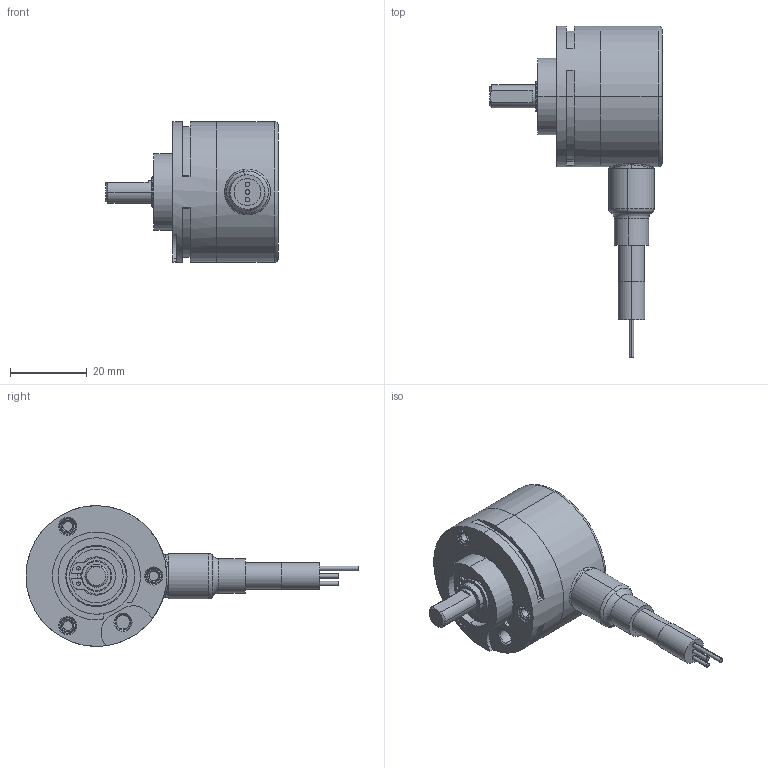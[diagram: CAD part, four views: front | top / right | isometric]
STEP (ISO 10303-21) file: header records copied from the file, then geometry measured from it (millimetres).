
FILE_DESCRIPTION (( 'STEP AP214' ), '1' );
FILE_NAME ('3700.13X2.XXXX.STEP', '2008-11-21T13:38:15', ( 'admin' ), ( 'Fritz Kübler GmbH' ), 'SwSTEP 2.0', 'SolidWorks 2008', '' );
FILE_SCHEMA (( 'AUTOMOTIVE_DESIGN' ));
Length unit declared in the file: millimetre
Products named in the file (1): 3700.13X2.XXXX
Bounding box: 45 x 86.8 x 36.8 mm (x, y, z)
Volume: 15895.8 mm3; surface area: 18350.9 mm2
Topology: 10 solids, 11 shells, 1126 faces, 2999 edges, 1882 vertices
Faces by surface type: cylinder 354, plane 353, bspline 173, torus 124, cone 81, sphere 41
Entity records: 52842 total; most frequent: CARTESIAN_POINT 15159, ORIENTED_EDGE 5872, DIRECTION 4932, EDGE_CURVE 2936, AXIS2_PLACEMENT_3D 2187, VERTEX_POINT 1848, CIRCLE 1233, EDGE_LOOP 1178
